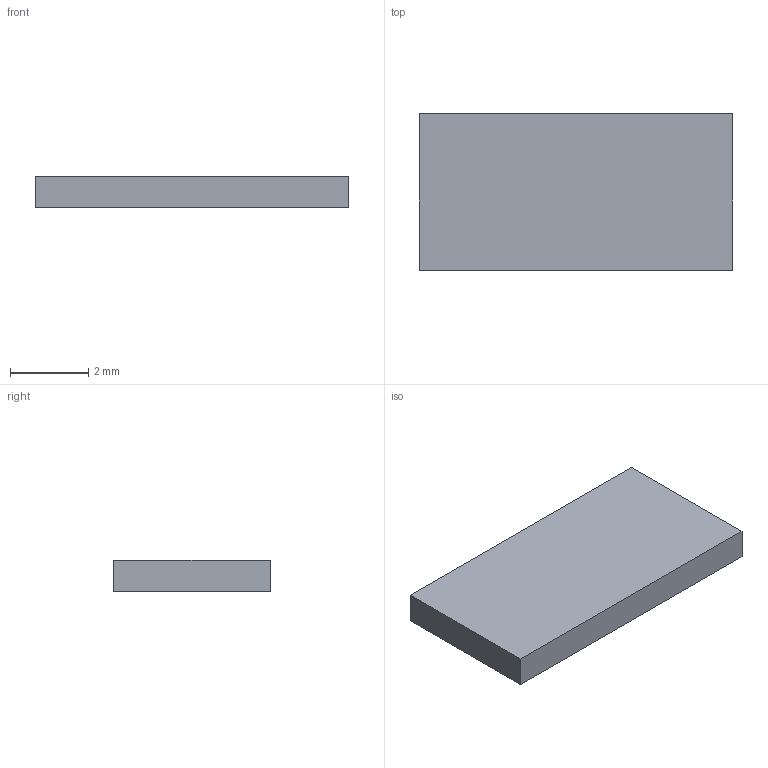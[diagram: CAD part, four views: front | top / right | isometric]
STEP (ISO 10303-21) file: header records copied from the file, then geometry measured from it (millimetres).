
FILE_DESCRIPTION(('Open CASCADE Model'),'2;1');
FILE_NAME('Open CASCADE Shape Model','2026-10-17T17:22:23',('Author'),( 'Open CASCADE'),'Open CASCADE STEP processor 7.9','Open CASCADE 7.9' ,'Unknown');
FILE_SCHEMA(('AUTOMOTIVE_DESIGN { 1 0 10303 214 1 1 1 1 }'));
Length unit declared in the file: millimetre
Products named in the file (1): Open CASCADE STEP translator 7.9 12
Bounding box: 8 x 4 x 0.8 mm (x, y, z)
Volume: 25.6 mm3; surface area: 83.2 mm2
Topology: 1 solids, 1 shells, 6 faces, 12 edges, 8 vertices
Faces by surface type: plane 6
Entity records: 322 total; most frequent: CARTESIAN_POINT 51, DIRECTION 50, LINE 36, VECTOR 36, ORIENTED_EDGE 24, PCURVE 24, DEFINITIONAL_REPRESENTATION 24, EDGE_CURVE 12
